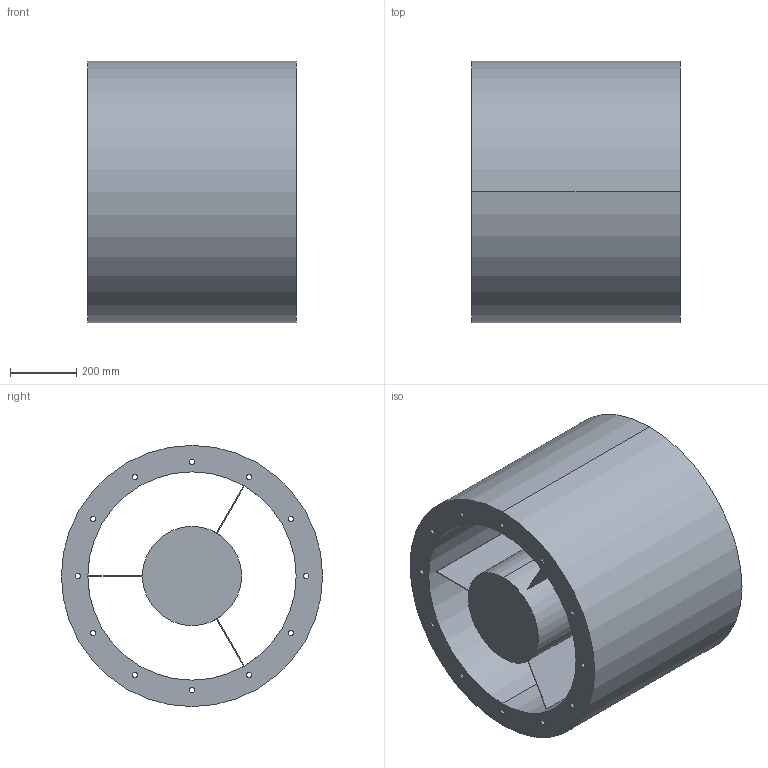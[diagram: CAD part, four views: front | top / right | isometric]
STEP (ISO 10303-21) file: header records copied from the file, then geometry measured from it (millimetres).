
FILE_DESCRIPTION(('STEP AP214'),'1');
FILE_NAME('accessory_5211814500.stp','2017-10-09T11:37:37',('TraceParts'),('TraceParts S.A.'),'Spatial InterOp 3D',' ',' ');
FILE_SCHEMA(('automotive_design'));
Length unit declared in the file: millimetre
Products named in the file (1): accessory_5211814500
Bounding box: 630 x 790 x 790 mm (x, y, z)
Volume: 149927479.1 mm3; surface area: 4585038.6 mm2
Topology: 1 solids, 1 shells, 48 faces, 131 edges, 87 vertices
Faces by surface type: cylinder 30, plane 16, torus 2
Entity records: 2024 total; most frequent: DIRECTION 306, CARTESIAN_POINT 267, ORIENTED_EDGE 262, EDGE_CURVE 131, AXIS2_PLACEMENT_3D 126, VERTEX_POINT 87, EDGE_LOOP 80, CIRCLE 77
